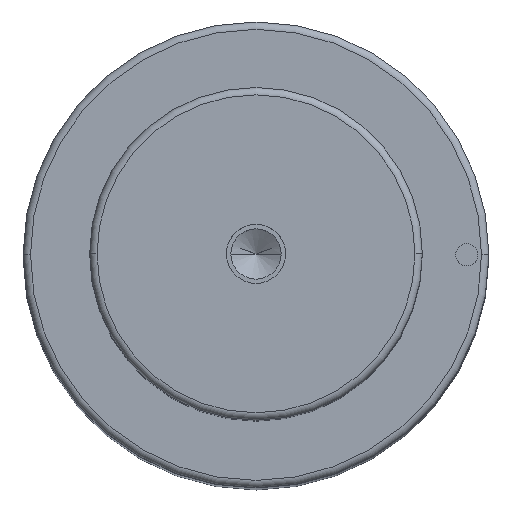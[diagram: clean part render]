
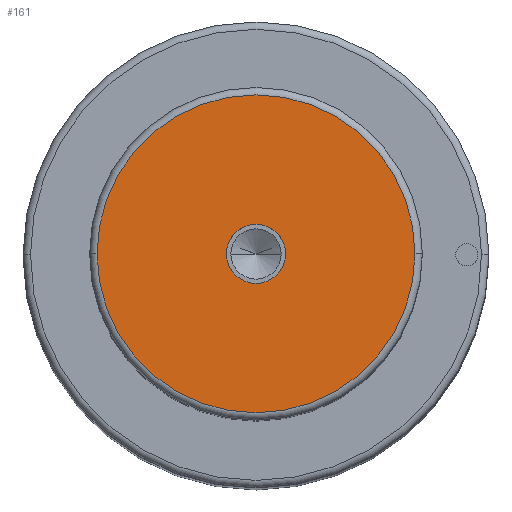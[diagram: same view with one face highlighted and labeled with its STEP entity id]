
A CAD part, top view. The second image highlights one B-rep face of the part: STEP entity #161.
In plain terms, the highlighted planar face has unit normal (0, 0, 1).
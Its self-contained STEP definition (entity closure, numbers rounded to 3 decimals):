
#104=PLANE('',#823);
#113=FACE_BOUND('',#265,.T.);
#114=FACE_BOUND('',#266,.T.);
#161=ADVANCED_FACE('',(#113,#114),#104,.T.);
#265=EDGE_LOOP('',(#405,#406));
#266=EDGE_LOOP('',(#407,#408));
#323=CIRCLE('',#817,4.);
#324=CIRCLE('',#819,4.);
#325=CIRCLE('',#821,21.5);
#326=CIRCLE('',#822,21.5);
#405=ORIENTED_EDGE('',*,*,#649,.F.);
#406=ORIENTED_EDGE('',*,*,#650,.F.);
#407=ORIENTED_EDGE('',*,*,#648,.T.);
#408=ORIENTED_EDGE('',*,*,#646,.T.);
#582=VERTEX_POINT('',#1204);
#583=VERTEX_POINT('',#1206);
#584=VERTEX_POINT('',#1212);
#585=VERTEX_POINT('',#1213);
#646=EDGE_CURVE('',#583,#582,#323,.T.);
#648=EDGE_CURVE('',#582,#583,#324,.T.);
#649=EDGE_CURVE('',#584,#585,#325,.T.);
#650=EDGE_CURVE('',#585,#584,#326,.T.);
#817=AXIS2_PLACEMENT_3D('',#1205,#947,#948);
#819=AXIS2_PLACEMENT_3D('',#1209,#952,#953);
#821=AXIS2_PLACEMENT_3D('',#1211,#956,#957);
#822=AXIS2_PLACEMENT_3D('',#1214,#958,#959);
#823=AXIS2_PLACEMENT_3D('',#1215,#960,#961);
#947=DIRECTION('',(0.,0.,-1.));
#948=DIRECTION('',(0.,1.,0.));
#952=DIRECTION('',(0.,0.,-1.));
#953=DIRECTION('',(0.,-1.,0.));
#956=DIRECTION('',(0.,0.,-1.));
#957=DIRECTION('',(0.,1.,0.));
#958=DIRECTION('',(0.,0.,-1.));
#959=DIRECTION('',(0.,-1.,0.));
#960=DIRECTION('',(0.,0.,1.));
#961=DIRECTION('',(0.,-1.,0.));
#1204=CARTESIAN_POINT('',(-4.,0.,255.));
#1205=CARTESIAN_POINT('',(0.,0.,255.));
#1206=CARTESIAN_POINT('',(4.,0.,255.));
#1209=CARTESIAN_POINT('',(0.,0.,255.));
#1211=CARTESIAN_POINT('',(0.,0.,255.));
#1212=CARTESIAN_POINT('',(21.5,0.,255.));
#1213=CARTESIAN_POINT('',(-21.5,0.,255.));
#1214=CARTESIAN_POINT('',(0.,0.,255.));
#1215=CARTESIAN_POINT('',(0.,0.,255.));
